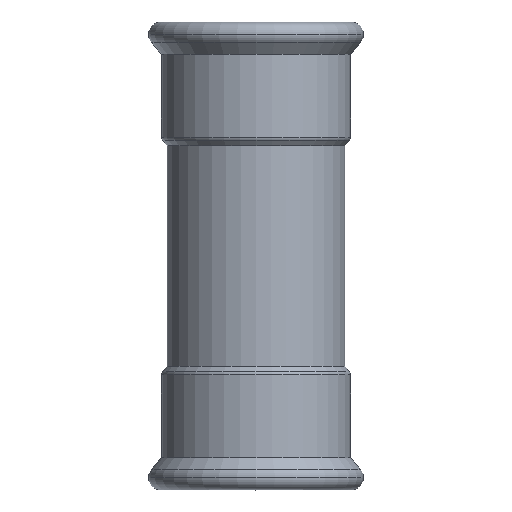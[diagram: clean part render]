
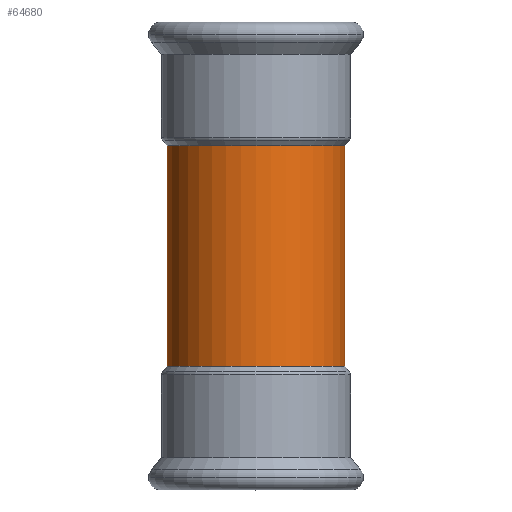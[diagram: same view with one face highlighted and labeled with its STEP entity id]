
A CAD part, top view. The second image highlights one B-rep face of the part: STEP entity #64680.
In plain terms, the highlighted cylindrical face has radius 27 mm (diameter 54 mm), a partial arc.
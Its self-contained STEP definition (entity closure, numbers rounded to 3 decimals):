
#21200=CARTESIAN_POINT('',(278.14,83.404,
33.5));
#21210=DIRECTION('',(0.,0.,1.));
#21220=DIRECTION('',(1.,0.,0.));
#21230=AXIS2_PLACEMENT_3D('',#21200,#21210,#21220);
#21240=CYLINDRICAL_SURFACE('',#21230,27.);
#33760=CARTESIAN_POINT('',(251.14,83.404,
33.5));
#33770=DIRECTION('',(0.,0.,1.));
#33780=VECTOR('',#33770,1.);
#33790=LINE('',#33760,#33780);
#33800=CARTESIAN_POINT('',(251.14,83.404,
-33.5));
#33810=VERTEX_POINT('',#33800);
#33820=CARTESIAN_POINT('',(251.14,83.404,
33.5));
#33830=VERTEX_POINT('',#33820);
#33840=EDGE_CURVE('',#33810,#33830,#33790,.T.);
#33860=CARTESIAN_POINT('',(278.14,83.404,
33.5));
#33870=DIRECTION('',(0.,0.,1.));
#33880=DIRECTION('',(1.,0.,0.));
#33890=AXIS2_PLACEMENT_3D('',#33860,#33870,#33880);
#33900=CIRCLE('',#33890,27.);
#33910=CARTESIAN_POINT('',(305.14,83.404,
33.5));
#33920=VERTEX_POINT('',#33910);
#33950=CARTESIAN_POINT('',(305.14,83.404,
33.5));
#33960=DIRECTION('',(0.,0.,1.));
#33970=VECTOR('',#33960,1.);
#33980=LINE('',#33950,#33970);
#33990=CARTESIAN_POINT('',(305.14,83.404,
-33.5));
#34000=VERTEX_POINT('',#33990);
#34010=EDGE_CURVE('',#34000,#33920,#33980,.T.);
#34030=CARTESIAN_POINT('',(278.14,83.404,
-33.5));
#34040=DIRECTION('',(0.,0.,-1.));
#34050=DIRECTION('',(1.,0.,0.));
#34060=AXIS2_PLACEMENT_3D('',#34030,#34040,#34050);
#34070=CIRCLE('',#34060,27.);
#64450=EDGE_CURVE('',#33920,#33830,#33900,.T.);
#64610=EDGE_CURVE('',#33810,#34000,#34070,.T.);
#64620=ORIENTED_EDGE('',*,*,#64610,.F.);
#64630=ORIENTED_EDGE('',*,*,#34010,.F.);
#64640=ORIENTED_EDGE('',*,*,#64450,.F.);
#64650=ORIENTED_EDGE('',*,*,#33840,.T.);
#64660=EDGE_LOOP('',(#64650,#64640,#64630,#64620));
#64670=FACE_OUTER_BOUND('',#64660,.T.);
#64680=ADVANCED_FACE('',(#64670),#21240,.T.);
